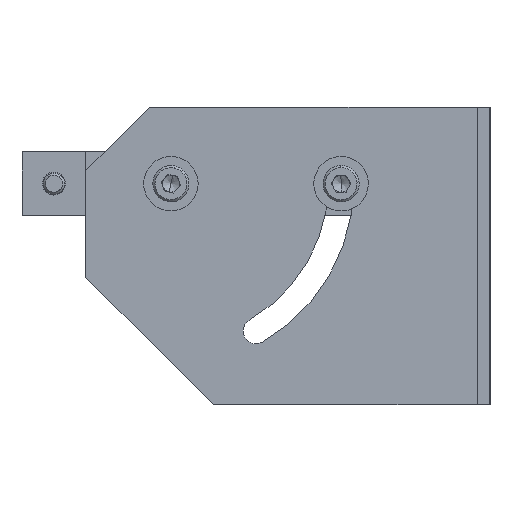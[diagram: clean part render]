
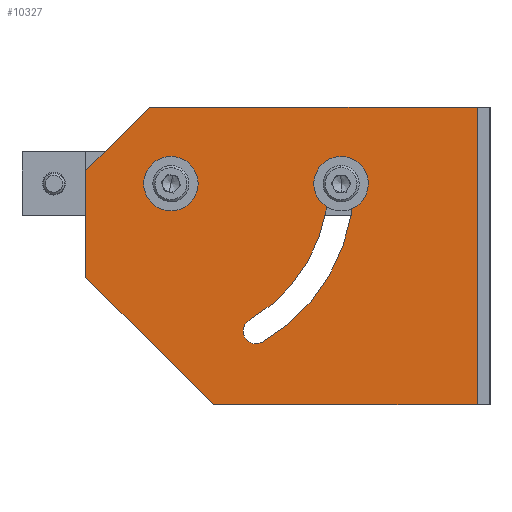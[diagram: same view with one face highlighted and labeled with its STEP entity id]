
A CAD part, left-side view. The second image highlights one B-rep face of the part: STEP entity #10327.
In plain terms, the highlighted planar face has unit normal (-1, 0, 0).
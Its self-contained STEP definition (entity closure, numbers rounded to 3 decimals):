
#21 = VERTEX_POINT ( 'NONE', #1145 ) ;
#50 = LINE ( 'NONE', #4851, #8385 ) ;
#70 = CARTESIAN_POINT ( 'NONE',  ( -43., 3., -34.641 ) ) ;
#131 = DIRECTION ( 'NONE',  ( -1., 0., 0. ) ) ;
#139 = CARTESIAN_POINT ( 'NONE',  ( -43., -1.5, -37.239 ) ) ;
#164 = CIRCLE ( 'NONE', #7608, 3. ) ;
#253 = EDGE_CURVE ( 'NONE', #8936, #5069, #10350, .T. ) ;
#313 = VECTOR ( 'NONE', #6116, 1000. ) ;
#326 = VERTEX_POINT ( 'NONE', #4257 ) ;
#416 = VERTEX_POINT ( 'NONE', #4927 ) ;
#500 = EDGE_CURVE ( 'NONE', #9121, #1837, #10621, .T. ) ;
#558 = LINE ( 'NONE', #2139, #4989 ) ;
#763 = AXIS2_PLACEMENT_3D ( 'NONE', #4316, #9555, #3947 ) ;
#840 = ORIENTED_EDGE ( 'NONE', *, *, #8478, .T. ) ;
#882 = ORIENTED_EDGE ( 'NONE', *, *, #2154, .T. ) ;
#1097 = AXIS2_PLACEMENT_3D ( 'NONE', #6550, #4128, #2499 ) ;
#1145 = CARTESIAN_POINT ( 'NONE',  ( -43., -23., 0. ) ) ;
#1172 = CARTESIAN_POINT ( 'NONE',  ( -43., 20., 0. ) ) ;
#1230 = EDGE_CURVE ( 'NONE', #7199, #416, #9205, .T. ) ;
#1299 = EDGE_LOOP ( 'NONE', ( #7178, #6087, #840, #10189, #6022, #882 ) ) ;
#1310 = CARTESIAN_POINT ( 'NONE',  ( -43., 1.5, -32.043 ) ) ;
#1333 = CARTESIAN_POINT ( 'NONE',  ( -43., 20., 0. ) ) ;
#1414 = DIRECTION ( 'NONE',  ( 1., 0., 0. ) ) ;
#1516 = DIRECTION ( 'NONE',  ( 1., 0., 0. ) ) ;
#1591 = CARTESIAN_POINT ( 'NONE',  ( -43., 3., -37.239 ) ) ;
#1636 = LINE ( 'NONE', #8368, #8006 ) ;
#1778 = EDGE_CURVE ( 'NONE', #8987, #2204, #50, .T. ) ;
#1829 = VERTEX_POINT ( 'NONE', #4632 ) ;
#1837 = VERTEX_POINT ( 'NONE', #2556 ) ;
#1900 = ORIENTED_EDGE ( 'NONE', *, *, #8582, .T. ) ;
#2014 = DIRECTION ( 'NONE',  ( 0., 0., 1. ) ) ;
#2112 = EDGE_CURVE ( 'NONE', #3764, #8987, #1636, .T. ) ;
#2139 = CARTESIAN_POINT ( 'NONE',  ( -43., 40., -22. ) ) ;
#2154 = EDGE_CURVE ( 'NONE', #3764, #7775, #2545, .T. ) ;
#2169 = DIRECTION ( 'NONE',  ( 0., -1., 0. ) ) ;
#2204 = VERTEX_POINT ( 'NONE', #7936 ) ;
#2330 = FACE_OUTER_BOUND ( 'NONE', #1299, .T. ) ;
#2466 = ORIENTED_EDGE ( 'NONE', *, *, #7235, .T. ) ;
#2499 = DIRECTION ( 'NONE',  ( 0., 0., 1. ) ) ;
#2539 = EDGE_CURVE ( 'NONE', #326, #21, #164, .T. ) ;
#2545 = LINE ( 'NONE', #6194, #313 ) ;
#2556 = CARTESIAN_POINT ( 'NONE',  ( -43., 3., -34.641 ) ) ;
#2830 = CIRCLE ( 'NONE', #5258, 3. ) ;
#2920 = ORIENTED_EDGE ( 'NONE', *, *, #500, .T. ) ;
#3191 = ORIENTED_EDGE ( 'NONE', *, *, #3993, .T. ) ;
#3349 = AXIS2_PLACEMENT_3D ( 'NONE', #1333, #7170, #2169 ) ;
#3396 = EDGE_LOOP ( 'NONE', ( #1900, #9329 ) ) ;
#3579 = DIRECTION ( 'NONE',  ( 0., 0., -1. ) ) ;
#3764 = VERTEX_POINT ( 'NONE', #7562 ) ;
#3811 = CARTESIAN_POINT ( 'NONE',  ( -43., 25., 18. ) ) ;
#3828 = CARTESIAN_POINT ( 'NONE',  ( -43., 40., 3. ) ) ;
#3869 = ORIENTED_EDGE ( 'NONE', *, *, #4706, .T. ) ;
#3947 = DIRECTION ( 'NONE',  ( 0., 0., 1. ) ) ;
#3993 = EDGE_CURVE ( 'NONE', #5069, #326, #5829, .T. ) ;
#4128 = DIRECTION ( 'NONE',  ( -1., 0., 0. ) ) ;
#4182 = CARTESIAN_POINT ( 'NONE',  ( -43., 25., 18. ) ) ;
#4257 = CARTESIAN_POINT ( 'NONE',  ( -43., -20., 3. ) ) ;
#4316 = CARTESIAN_POINT ( 'NONE',  ( -43., -20., 0. ) ) ;
#4373 = CARTESIAN_POINT ( 'NONE',  ( -43., 20., 2.7 ) ) ;
#4632 = CARTESIAN_POINT ( 'NONE',  ( -43., 20., -2.7 ) ) ;
#4643 = DIRECTION ( 'NONE',  ( 0., 0.707, -0.707 ) ) ;
#4706 = EDGE_CURVE ( 'NONE', #1837, #8936, #2830, .T. ) ;
#4735 = VECTOR ( 'NONE', #4643, 1000. ) ;
#4851 = CARTESIAN_POINT ( 'NONE',  ( -43., -22.5, -52. ) ) ;
#4927 = CARTESIAN_POINT ( 'NONE',  ( -43., 40., -22. ) ) ;
#4989 = VECTOR ( 'NONE', #7905, 1000. ) ;
#5069 = VERTEX_POINT ( 'NONE', #9393 ) ;
#5080 = AXIS2_PLACEMENT_3D ( 'NONE', #1172, #7007, #2014 ) ;
#5081 = AXIS2_PLACEMENT_3D ( 'NONE', #6517, #1516, #7360 ) ;
#5150 = CARTESIAN_POINT ( 'NONE',  ( -43., -52., 18. ) ) ;
#5170 = ORIENTED_EDGE ( 'NONE', *, *, #2539, .T. ) ;
#5197 = AXIS2_PLACEMENT_3D ( 'NONE', #5150, #131, #5993 ) ;
#5258 = AXIS2_PLACEMENT_3D ( 'NONE', #6403, #1414, #8957 ) ;
#5284 = CARTESIAN_POINT ( 'NONE',  ( -43., -20., 0. ) ) ;
#5326 = DIRECTION ( 'NONE',  ( 1., 0., 0. ) ) ;
#5364 = DIRECTION ( 'NONE',  ( 0., 0., 1. ) ) ;
#5628 = FACE_BOUND ( 'NONE', #6965, .T. ) ;
#5829 = CIRCLE ( 'NONE', #763, 3. ) ;
#5993 = DIRECTION ( 'NONE',  ( 0., 1., 0. ) ) ;
#6022 = ORIENTED_EDGE ( 'NONE', *, *, #2112, .F. ) ;
#6087 = ORIENTED_EDGE ( 'NONE', *, *, #1230, .T. ) ;
#6116 = DIRECTION ( 'NONE',  ( 0., 1., 0. ) ) ;
#6194 = CARTESIAN_POINT ( 'NONE',  ( -43., -6., 18. ) ) ;
#6304 = EDGE_CURVE ( 'NONE', #1829, #8418, #10678, .T. ) ;
#6403 = CARTESIAN_POINT ( 'NONE',  ( -43., 0., -34.641 ) ) ;
#6517 = CARTESIAN_POINT ( 'NONE',  ( -43., 20., 0. ) ) ;
#6550 = CARTESIAN_POINT ( 'NONE',  ( -43., 20., 0. ) ) ;
#6797 = PLANE ( 'NONE',  #5197 ) ;
#6965 = EDGE_LOOP ( 'NONE', ( #3191, #5170, #2466, #2920, #3869, #7628 ) ) ;
#7007 = DIRECTION ( 'NONE',  ( 1., 0., 0. ) ) ;
#7099 = CIRCLE ( 'NONE', #5080, 2.7 ) ;
#7170 = DIRECTION ( 'NONE',  ( 1., 0., 0. ) ) ;
#7178 = ORIENTED_EDGE ( 'NONE', *, *, #8480, .T. ) ;
#7199 = VERTEX_POINT ( 'NONE', #3828 ) ;
#7235 = EDGE_CURVE ( 'NONE', #21, #9121, #8100, .T. ) ;
#7281 = VECTOR ( 'NONE', #8470, 1000. ) ;
#7282 = CARTESIAN_POINT ( 'NONE',  ( -43., 40., -17. ) ) ;
#7360 = DIRECTION ( 'NONE',  ( 0., 0., 1. ) ) ;
#7562 = CARTESIAN_POINT ( 'NONE',  ( -43., -52., 18. ) ) ;
#7608 = AXIS2_PLACEMENT_3D ( 'NONE', #5284, #5326, #5364 ) ;
#7628 = ORIENTED_EDGE ( 'NONE', *, *, #253, .T. ) ;
#7775 = VERTEX_POINT ( 'NONE', #4182 ) ;
#7905 = DIRECTION ( 'NONE',  ( 0., -0.707, -0.707 ) ) ;
#7936 = CARTESIAN_POINT ( 'NONE',  ( -43., 10., -52. ) ) ;
#7986 = CARTESIAN_POINT ( 'NONE',  ( -43., -52., -52. ) ) ;
#8006 = VECTOR ( 'NONE', #3579, 1000. ) ;
#8100 = CIRCLE ( 'NONE', #3349, 43. ) ;
#8368 = CARTESIAN_POINT ( 'NONE',  ( -43., -52., -17. ) ) ;
#8385 = VECTOR ( 'NONE', #9009, 1000. ) ;
#8418 = VERTEX_POINT ( 'NONE', #4373 ) ;
#8470 = DIRECTION ( 'NONE',  ( 0., 0., -1. ) ) ;
#8478 = EDGE_CURVE ( 'NONE', #416, #2204, #558, .T. ) ;
#8480 = EDGE_CURVE ( 'NONE', #7775, #7199, #9166, .T. ) ;
#8582 = EDGE_CURVE ( 'NONE', #8418, #1829, #7099, .T. ) ;
#8936 = VERTEX_POINT ( 'NONE', #1310 ) ;
#8957 = DIRECTION ( 'NONE',  ( 0., -1., 0. ) ) ;
#8980 = FACE_BOUND ( 'NONE', #3396, .T. ) ;
#8987 = VERTEX_POINT ( 'NONE', #7986 ) ;
#9009 = DIRECTION ( 'NONE',  ( 0., 1., 0. ) ) ;
#9121 = VERTEX_POINT ( 'NONE', #9198 ) ;
#9166 = LINE ( 'NONE', #3811, #4735 ) ;
#9198 = CARTESIAN_POINT ( 'NONE',  ( -43., -1.5, -37.239 ) ) ;
#9205 = LINE ( 'NONE', #7282, #7281 ) ;
#9329 = ORIENTED_EDGE ( 'NONE', *, *, #6304, .T. ) ;
#9393 = CARTESIAN_POINT ( 'NONE',  ( -43., -17., 0. ) ) ;
#9555 = DIRECTION ( 'NONE',  ( 1., 0., 0. ) ) ;
#9858 = CARTESIAN_POINT ( 'NONE',  ( -43., 0.75, -38.538 ) ) ;
#10189 = ORIENTED_EDGE ( 'NONE', *, *, #1778, .F. ) ;
#10327 = ADVANCED_FACE ( 'NONE', ( #5628, #8980, #2330 ), #6797, .T. ) ;
#10350 = CIRCLE ( 'NONE', #1097, 37. ) ;
#10621 =( BOUNDED_CURVE ( )  B_SPLINE_CURVE ( 3, ( #139, #9858, #1591, #70 ),
 .UNSPECIFIED., .F., .T. ) 
 B_SPLINE_CURVE_WITH_KNOTS ( ( 4, 4 ),
 ( 0., 0.006 ),
 .UNSPECIFIED. ) 
 CURVE ( )  GEOMETRIC_REPRESENTATION_ITEM ( )  RATIONAL_B_SPLINE_CURVE ( ( 1., 0.667, 0.667, 1. ) ) 
 REPRESENTATION_ITEM ( '' )  );
#10678 = CIRCLE ( 'NONE', #5081, 2.7 ) ;
